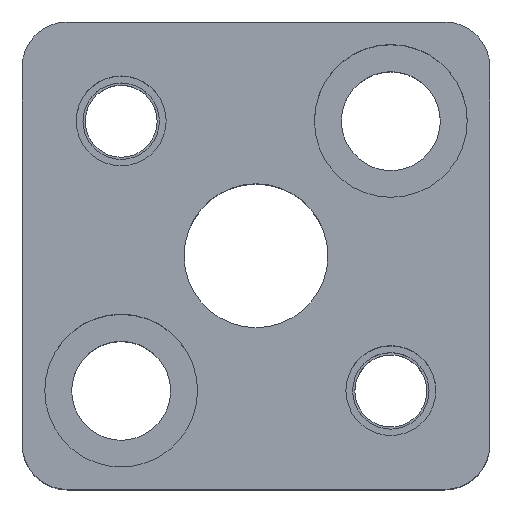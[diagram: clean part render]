
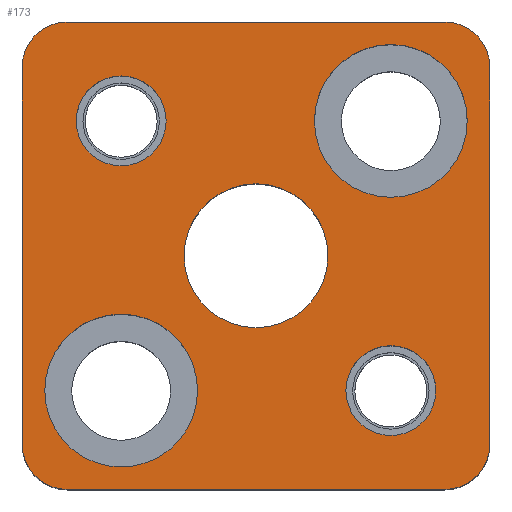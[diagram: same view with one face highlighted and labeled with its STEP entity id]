
A CAD part, top view. The second image highlights one B-rep face of the part: STEP entity #173.
In plain terms, the highlighted planar face has unit normal (0, 0, 1).
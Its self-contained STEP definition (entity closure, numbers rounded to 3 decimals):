
#112=PLANE('',#991);
#133=FACE_BOUND('',#298,.T.);
#134=FACE_BOUND('',#299,.T.);
#135=FACE_BOUND('',#300,.T.);
#136=FACE_BOUND('',#301,.T.);
#137=FACE_BOUND('',#302,.T.);
#138=FACE_BOUND('',#303,.T.);
#173=ADVANCED_FACE('',(#133,#134,#135,#136,#137,#138),#112,.T.);
#298=EDGE_LOOP('',(#490,#491,#492,#493,#494,#495,#496,#497));
#299=EDGE_LOOP('',(#498,#499));
#300=EDGE_LOOP('',(#500,#501));
#301=EDGE_LOOP('',(#502,#503));
#302=EDGE_LOOP('',(#504,#505));
#303=EDGE_LOOP('',(#506,#507));
#360=CIRCLE('',#955,5.);
#362=CIRCLE('',#958,5.);
#364=CIRCLE('',#962,5.);
#366=CIRCLE('',#965,5.);
#376=CIRCLE('',#981,5.);
#377=CIRCLE('',#982,5.);
#378=CIRCLE('',#983,5.);
#379=CIRCLE('',#984,5.);
#380=CIRCLE('',#985,8.5);
#381=CIRCLE('',#986,8.5);
#382=CIRCLE('',#987,8.5);
#383=CIRCLE('',#988,8.5);
#384=CIRCLE('',#989,8.);
#385=CIRCLE('',#990,8.);
#490=ORIENTED_EDGE('',*,*,#762,.T.);
#491=ORIENTED_EDGE('',*,*,#763,.T.);
#492=ORIENTED_EDGE('',*,*,#764,.T.);
#493=ORIENTED_EDGE('',*,*,#765,.T.);
#494=ORIENTED_EDGE('',*,*,#766,.T.);
#495=ORIENTED_EDGE('',*,*,#767,.T.);
#496=ORIENTED_EDGE('',*,*,#768,.T.);
#497=ORIENTED_EDGE('',*,*,#769,.T.);
#498=ORIENTED_EDGE('',*,*,#770,.F.);
#499=ORIENTED_EDGE('',*,*,#771,.F.);
#500=ORIENTED_EDGE('',*,*,#772,.F.);
#501=ORIENTED_EDGE('',*,*,#773,.F.);
#502=ORIENTED_EDGE('',*,*,#748,.F.);
#503=ORIENTED_EDGE('',*,*,#744,.F.);
#504=ORIENTED_EDGE('',*,*,#742,.F.);
#505=ORIENTED_EDGE('',*,*,#738,.F.);
#506=ORIENTED_EDGE('',*,*,#774,.T.);
#507=ORIENTED_EDGE('',*,*,#775,.T.);
#654=VERTEX_POINT('',#1377);
#655=VERTEX_POINT('',#1378);
#658=VERTEX_POINT('',#1390);
#659=VERTEX_POINT('',#1391);
#670=VERTEX_POINT('',#1427);
#671=VERTEX_POINT('',#1428);
#672=VERTEX_POINT('',#1430);
#673=VERTEX_POINT('',#1432);
#674=VERTEX_POINT('',#1434);
#675=VERTEX_POINT('',#1436);
#676=VERTEX_POINT('',#1438);
#677=VERTEX_POINT('',#1440);
#678=VERTEX_POINT('',#1443);
#679=VERTEX_POINT('',#1444);
#680=VERTEX_POINT('',#1447);
#681=VERTEX_POINT('',#1448);
#682=VERTEX_POINT('',#1451);
#683=VERTEX_POINT('',#1452);
#738=EDGE_CURVE('',#654,#655,#360,.T.);
#742=EDGE_CURVE('',#655,#654,#362,.T.);
#744=EDGE_CURVE('',#658,#659,#364,.T.);
#748=EDGE_CURVE('',#659,#658,#366,.T.);
#762=EDGE_CURVE('',#670,#671,#376,.T.);
#763=EDGE_CURVE('',#671,#672,#842,.T.);
#764=EDGE_CURVE('',#672,#673,#377,.T.);
#765=EDGE_CURVE('',#673,#674,#843,.T.);
#766=EDGE_CURVE('',#674,#675,#378,.T.);
#767=EDGE_CURVE('',#675,#676,#844,.T.);
#768=EDGE_CURVE('',#676,#677,#379,.T.);
#769=EDGE_CURVE('',#677,#670,#845,.T.);
#770=EDGE_CURVE('',#678,#679,#380,.T.);
#771=EDGE_CURVE('',#679,#678,#381,.T.);
#772=EDGE_CURVE('',#680,#681,#382,.T.);
#773=EDGE_CURVE('',#681,#680,#383,.T.);
#774=EDGE_CURVE('',#682,#683,#384,.T.);
#775=EDGE_CURVE('',#683,#682,#385,.T.);
#842=LINE('',#1429,#891);
#843=LINE('',#1433,#892);
#844=LINE('',#1437,#893);
#845=LINE('',#1441,#894);
#891=VECTOR('',#1174,1.);
#892=VECTOR('',#1177,1.);
#893=VECTOR('',#1180,1.);
#894=VECTOR('',#1183,1.);
#955=AXIS2_PLACEMENT_3D('',#1376,#1112,#1113);
#958=AXIS2_PLACEMENT_3D('',#1385,#1120,#1121);
#962=AXIS2_PLACEMENT_3D('',#1389,#1128,#1129);
#965=AXIS2_PLACEMENT_3D('',#1398,#1136,#1137);
#981=AXIS2_PLACEMENT_3D('',#1426,#1172,#1173);
#982=AXIS2_PLACEMENT_3D('',#1431,#1175,#1176);
#983=AXIS2_PLACEMENT_3D('',#1435,#1178,#1179);
#984=AXIS2_PLACEMENT_3D('',#1439,#1181,#1182);
#985=AXIS2_PLACEMENT_3D('',#1442,#1184,#1185);
#986=AXIS2_PLACEMENT_3D('',#1445,#1186,#1187);
#987=AXIS2_PLACEMENT_3D('',#1446,#1188,#1189);
#988=AXIS2_PLACEMENT_3D('',#1449,#1190,#1191);
#989=AXIS2_PLACEMENT_3D('',#1450,#1192,#1193);
#990=AXIS2_PLACEMENT_3D('',#1453,#1194,#1195);
#991=AXIS2_PLACEMENT_3D('',#1454,#1196,#1197);
#1112=DIRECTION('',(0.,0.,1.));
#1113=DIRECTION('',(-1.,0.,0.));
#1120=DIRECTION('',(0.,0.,1.));
#1121=DIRECTION('',(1.,0.,0.));
#1128=DIRECTION('',(0.,0.,1.));
#1129=DIRECTION('',(-1.,0.,0.));
#1136=DIRECTION('',(0.,0.,1.));
#1137=DIRECTION('',(1.,0.,0.));
#1172=DIRECTION('',(0.,0.,1.));
#1173=DIRECTION('',(-0.707,0.707,0.));
#1174=DIRECTION('',(0.,1.,0.));
#1175=DIRECTION('',(0.,0.,1.));
#1176=DIRECTION('',(-0.707,-0.707,0.));
#1177=DIRECTION('',(-1.,0.,0.));
#1178=DIRECTION('',(0.,0.,1.));
#1179=DIRECTION('',(0.707,-0.707,0.));
#1180=DIRECTION('',(0.,-1.,0.));
#1181=DIRECTION('',(0.,0.,1.));
#1182=DIRECTION('',(0.707,0.707,0.));
#1183=DIRECTION('',(1.,0.,0.));
#1184=DIRECTION('',(0.,0.,1.));
#1185=DIRECTION('',(1.,0.,0.));
#1186=DIRECTION('',(0.,0.,1.));
#1187=DIRECTION('',(-1.,0.,0.));
#1188=DIRECTION('',(0.,0.,1.));
#1189=DIRECTION('',(1.,0.,0.));
#1190=DIRECTION('',(0.,0.,1.));
#1191=DIRECTION('',(-1.,0.,0.));
#1192=DIRECTION('',(0.,0.,-1.));
#1193=DIRECTION('',(-1.,0.,0.));
#1194=DIRECTION('',(0.,0.,-1.));
#1195=DIRECTION('',(1.,0.,0.));
#1196=DIRECTION('',(0.,0.,1.));
#1197=DIRECTION('',(-1.,0.,0.));
#1376=CARTESIAN_POINT('',(15.,-15.,35.));
#1377=CARTESIAN_POINT('',(15.,-20.,35.));
#1378=CARTESIAN_POINT('',(15.,-10.,35.));
#1385=CARTESIAN_POINT('',(15.,-15.,35.));
#1389=CARTESIAN_POINT('',(-15.,15.,35.));
#1390=CARTESIAN_POINT('',(-15.,10.,35.));
#1391=CARTESIAN_POINT('',(-15.,20.,35.));
#1398=CARTESIAN_POINT('',(-15.,15.,35.));
#1426=CARTESIAN_POINT('',(21.,-21.,35.));
#1427=CARTESIAN_POINT('',(21.,-26.,35.));
#1428=CARTESIAN_POINT('',(26.,-21.,35.));
#1429=CARTESIAN_POINT('',(26.,21.,35.));
#1430=CARTESIAN_POINT('',(26.,21.,35.));
#1431=CARTESIAN_POINT('',(21.,21.,35.));
#1432=CARTESIAN_POINT('',(21.,26.,35.));
#1433=CARTESIAN_POINT('',(-21.,26.,35.));
#1434=CARTESIAN_POINT('',(-21.,26.,35.));
#1435=CARTESIAN_POINT('',(-21.,21.,35.));
#1436=CARTESIAN_POINT('',(-26.,21.,35.));
#1437=CARTESIAN_POINT('',(-26.,21.,35.));
#1438=CARTESIAN_POINT('',(-26.,-21.,35.));
#1439=CARTESIAN_POINT('',(-21.,-21.,35.));
#1440=CARTESIAN_POINT('',(-21.,-26.,35.));
#1441=CARTESIAN_POINT('',(-21.,-26.,35.));
#1442=CARTESIAN_POINT('',(15.,15.,35.));
#1443=CARTESIAN_POINT('',(15.,23.5,35.));
#1444=CARTESIAN_POINT('',(15.,6.5,35.));
#1445=CARTESIAN_POINT('',(15.,15.,35.));
#1446=CARTESIAN_POINT('',(-15.,-15.,35.));
#1447=CARTESIAN_POINT('',(-15.,-6.5,35.));
#1448=CARTESIAN_POINT('',(-15.,-23.5,35.));
#1449=CARTESIAN_POINT('',(-15.,-15.,35.));
#1450=CARTESIAN_POINT('',(0.,0.,35.));
#1451=CARTESIAN_POINT('',(0.,8.,35.));
#1452=CARTESIAN_POINT('',(0.,-8.,35.));
#1453=CARTESIAN_POINT('',(0.,0.,35.));
#1454=CARTESIAN_POINT('',(21.,-26.,35.));
